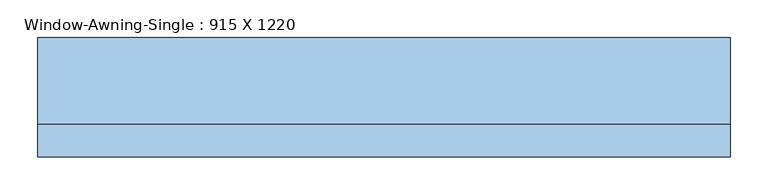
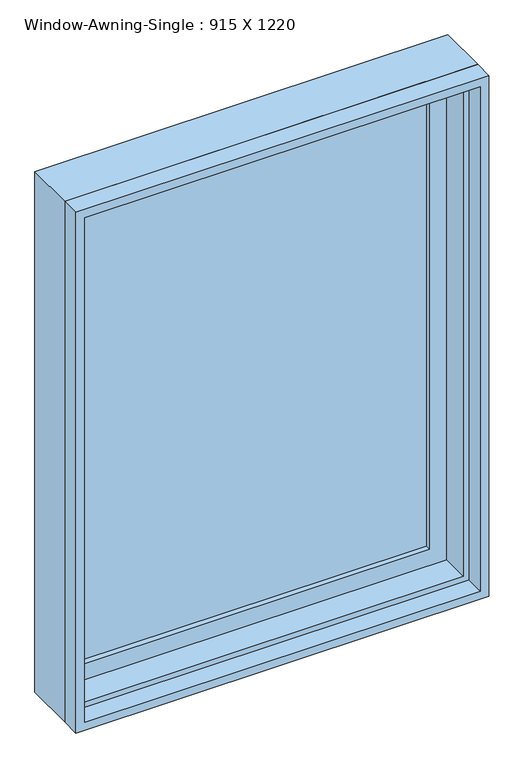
"""IFC4 building model written with IfcOpenShell, lengths in millimetres: window geometry, Window-Awning-Single : 915 X 1220."""

from ifc_helpers import new_model, si_unit, frame, origin, place, context, project, spatial, polyline, outline, extrude, faceted_brep, source, transform, mapped, element, save


def window_awning_single_915_x_1220_b06b9331(model_context):
    return source(origin(), model_context, "Body", "SolidModel", [
        faceted_brep([(444.8, 37.5, 927.1), (444.8, 88.3, 927.1), (-444.8, 88.3, 927.1), (-444.8, 37.5, 927.1), (425.75, -26.0, 946.15), (425.75, 37.5, 946.15), (-425.75, 37.5, 946.15), (-425.75, -26.0, 946.15), (457.5, 88.3, 914.4), (457.5, -26.0, 914.4), (-457.5, -26.0, 914.4), (-457.5, 88.3, 914.4), (-444.8, 88.3, 2121.7), (-444.8, 37.5, 2121.7), (-425.75, 37.5, 2102.65), (-425.75, -26.0, 2102.65), (-457.5, -26.0, 2134.4), (-457.5, 88.3, 2134.4), (444.8, 88.3, 2121.7), (444.8, 37.5, 2121.7), (425.75, 37.5, 2102.65), (425.75, -26.0, 2102.65), (457.5, -26.0, 2134.4), (457.5, 88.3, 2134.4)], [[[0, 1, 2, 3]], [[4, 5, 6, 7]], [[8, 9, 10, 11]], [[3, 2, 12, 13]], [[7, 6, 14, 15]], [[11, 10, 16, 17]], [[13, 12, 18, 19]], [[15, 14, 20, 21]], [[17, 16, 22, 23]], [[11, 17, 23, 8], [1, 18, 12, 2]], [[19, 18, 1, 0]], [[3, 13, 19, 0], [5, 20, 14, 6]], [[21, 20, 5, 4]], [[9, 22, 16, 10], [7, 15, 21, 4]], [[23, 22, 9, 8]]]),
        extrude(outline(polyline([(387.65, 69.25), (387.65, 62.9), (-387.65, 62.9), (-387.65, 69.25), (387.65, 69.25)])), frame((0.0, 0.0, 984.25), z_axis=(0.0, 0.0, 1.0), x_axis=(1.0, 0.0, 0.0)), (0.0, 0.0, 1.0), 1080.3),
        extrude(outline(polyline([(387.65, 56.55), (387.65, 50.2), (-387.65, 50.2), (-387.65, 56.55), (387.65, 56.55)])), frame((0.0, 0.0, 984.25), z_axis=(0.0, 0.0, 1.0), x_axis=(1.0, 0.0, 0.0)), (0.0, 0.0, 1.0), 1080.3),
        extrude(outline(polyline([(927.1, -444.8), (927.1, 444.8), (2121.7, 444.8), (2121.7, -444.8), (927.1, -444.8)]), holes=[polyline([(2064.55, -387.65), (2064.55, 387.65), (984.25, 387.65), (984.25, -387.65), (2064.55, -387.65)])]), frame((0.0, 37.5, 0.0), z_axis=(0.0, 1.0, 0.0), x_axis=(0.0, 0.0, 1.0)), (0.0, 0.0, 1.0), 44.45),
        extrude(outline(polyline([(2134.4, -457.5), (914.4, -457.5), (914.4, 457.5), (2134.4, 457.5), (2134.4, -457.5)]), holes=[polyline([(2115.35, -438.45), (2115.35, 438.45), (933.45, 438.45), (933.45, -438.45), (2115.35, -438.45)])]), frame((0.0, -69.25, 0.0), z_axis=(0.0, 1.0, 0.0), x_axis=(0.0, 0.0, 1.0)), (0.0, 0.0, 1.0), 43.25),
    ])


if __name__ == "__main__":
    model = new_model("IFC4")
    model_context = context("Model", 3, world=origin())
    ifc_project = project(units=[si_unit("LENGTHUNIT", "METRE", prefix="MILLI")], contexts=[model_context])
    site = spatial("IfcSite", under=ifc_project)
    building = spatial("IfcBuilding", under=site)
    placement = place(None, origin())
    window_awning_single_915_x_1220_shape = window_awning_single_915_x_1220_b06b9331(model_context)
    element("IfcWindow", 1, ObjectType="Window-Awning-Single : 915 X 1220", at=placement, inside=building, context=model_context, shape_type="MappedRepresentation", body=[
        mapped(window_awning_single_915_x_1220_shape, transform((0.0, 0.0, 0.0), x_axis=(1.0, 0.0, 0.0), y_axis=(0.0, 1.0, 0.0), z_axis=(0.0, 0.0, 1.0))),
    ])
    save(model, "model.ifc")
